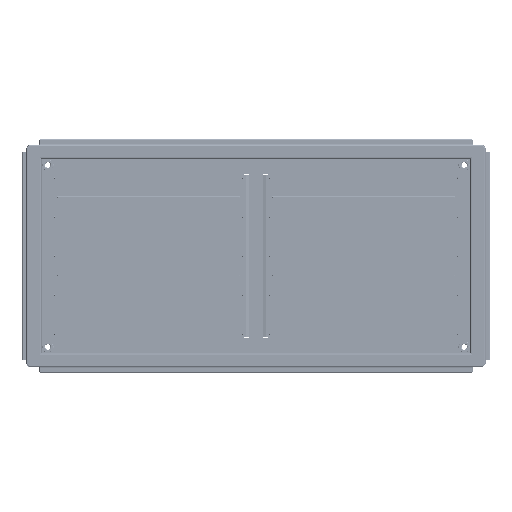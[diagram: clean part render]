
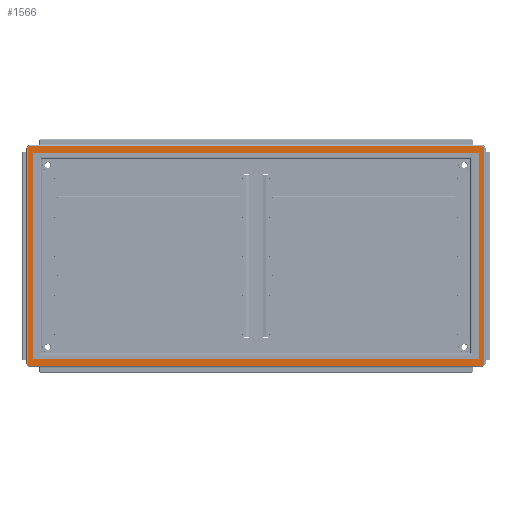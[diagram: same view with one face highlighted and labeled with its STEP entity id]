
A CAD part, front view. The second image highlights one B-rep face of the part: STEP entity #1566.
In plain terms, the highlighted planar face has unit normal (0, -1, 0).
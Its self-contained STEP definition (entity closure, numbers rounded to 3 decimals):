
#1566=ADVANCED_FACE('',(#38269,#38271),#38273,.T.);
#38269=FACE_BOUND('',#38270,.T.);
#38270=EDGE_LOOP('',(#107763,#107764,#107765,#107766,#107767,#107768,#107769,#107770));
#38271=FACE_BOUND('',#38272,.T.);
#38272=EDGE_LOOP('',(#107771,#107772,#107773,#107774));
#38273=PLANE('',#38274);
#38274=AXIS2_PLACEMENT_3D('',#38275,#38276,#38277);
#38275=CARTESIAN_POINT('',(262.2,0.,-564.9));
#38276=DIRECTION('',(0.,-1.,0.));
#38277=DIRECTION('',(0.,0.,1.));
#107763=ORIENTED_EDGE('',*,*,#148937,.F.);
#107764=ORIENTED_EDGE('',*,*,#148938,.F.);
#107765=ORIENTED_EDGE('',*,*,#148939,.T.);
#107766=ORIENTED_EDGE('',*,*,#148940,.T.);
#107767=ORIENTED_EDGE('',*,*,#148941,.F.);
#107768=ORIENTED_EDGE('',*,*,#148942,.T.);
#107769=ORIENTED_EDGE('',*,*,#148943,.T.);
#107770=ORIENTED_EDGE('',*,*,#148944,.F.);
#107771=ORIENTED_EDGE('',*,*,#148945,.T.);
#107772=ORIENTED_EDGE('',*,*,#148946,.T.);
#107773=ORIENTED_EDGE('',*,*,#148947,.F.);
#107774=ORIENTED_EDGE('',*,*,#148948,.T.);
#148937=EDGE_CURVE('',#169620,#169621,#169622,.T.);
#148938=EDGE_CURVE('',#169623,#169620,#169624,.T.);
#148939=EDGE_CURVE('',#169623,#169625,#169626,.T.);
#148940=EDGE_CURVE('',#169625,#169627,#169628,.T.);
#148941=EDGE_CURVE('',#169629,#169627,#169630,.T.);
#148942=EDGE_CURVE('',#169629,#169631,#169632,.T.);
#148943=EDGE_CURVE('',#169631,#169633,#169634,.T.);
#148944=EDGE_CURVE('',#169621,#169633,#169635,.T.);
#148945=EDGE_CURVE('',#169636,#169637,#169638,.T.);
#148946=EDGE_CURVE('',#169637,#169639,#169640,.T.);
#148947=EDGE_CURVE('',#169641,#169639,#169642,.T.);
#148948=EDGE_CURVE('',#169641,#169636,#169643,.T.);
#169620=VERTEX_POINT('',#205052);
#169621=VERTEX_POINT('',#205053);
#169622=LINE('',#205054,#205055);
#169623=VERTEX_POINT('',#205057);
#169624=LINE('',#205058,#205059);
#169625=VERTEX_POINT('',#205061);
#169626=LINE('',#205062,#205063);
#169627=VERTEX_POINT('',#205065);
#169628=LINE('',#205066,#205067);
#169629=VERTEX_POINT('',#205069);
#169630=LINE('',#205070,#205071);
#169631=VERTEX_POINT('',#205073);
#169632=LINE('',#205074,#205075);
#169633=VERTEX_POINT('',#205077);
#169634=LINE('',#205078,#205079);
#169635=LINE('',#205081,#205082);
#169636=VERTEX_POINT('',#205084);
#169637=VERTEX_POINT('',#205085);
#169638=LINE('',#205086,#205087);
#169639=VERTEX_POINT('',#205089);
#169640=LINE('',#205090,#205091);
#169641=VERTEX_POINT('',#205093);
#169642=LINE('',#205094,#205095);
#169643=LINE('',#205097,#205098);
#205052=CARTESIAN_POINT('',(766.716,0.,-3.1));
#205053=CARTESIAN_POINT('',(771.9,0.,-8.284));
#205054=CARTESIAN_POINT('',(766.716,0.,-3.1));
#205055=VECTOR('',#205056,1.);
#205056=DIRECTION('',(0.707,0.,-0.707));
#205057=CARTESIAN_POINT('',(-391.716,0.,-3.1));
#205058=CARTESIAN_POINT('',(-391.716,0.,-3.1));
#205059=VECTOR('',#205060,1.);
#205060=DIRECTION('',(1.,0.,0.));
#205061=CARTESIAN_POINT('',(-396.9,0.,-8.284));
#205062=CARTESIAN_POINT('',(-391.716,0.,-3.1));
#205063=VECTOR('',#205064,1.);
#205064=DIRECTION('',(-0.707,0.,-0.707));
#205065=CARTESIAN_POINT('',(-396.9,0.,-559.716));
#205066=CARTESIAN_POINT('',(-396.9,0.,-8.284));
#205067=VECTOR('',#205068,1.);
#205068=DIRECTION('',(0.,0.,-1.));
#205069=CARTESIAN_POINT('',(-391.716,0.,-564.9));
#205070=CARTESIAN_POINT('',(-391.716,0.,-564.9));
#205071=VECTOR('',#205072,1.);
#205072=DIRECTION('',(-0.707,0.,0.707));
#205073=CARTESIAN_POINT('',(766.716,0.,-564.9));
#205074=CARTESIAN_POINT('',(-391.716,0.,-564.9));
#205075=VECTOR('',#205076,1.);
#205076=DIRECTION('',(1.,0.,0.));
#205077=CARTESIAN_POINT('',(771.9,0.,-559.716));
#205078=CARTESIAN_POINT('',(766.716,0.,-564.9));
#205079=VECTOR('',#205080,1.);
#205080=DIRECTION('',(0.707,0.,0.707));
#205081=CARTESIAN_POINT('',(771.9,0.,-8.284));
#205082=VECTOR('',#205083,1.);
#205083=DIRECTION('',(0.,0.,-1.));
#205084=CARTESIAN_POINT('',(-383.591,0.,-19.899));
#205085=CARTESIAN_POINT('',(758.591,0.,-19.899));
#205086=CARTESIAN_POINT('',(-383.591,0.,-19.899));
#205087=VECTOR('',#205088,1.);
#205088=DIRECTION('',(1.,0.,0.));
#205089=CARTESIAN_POINT('',(758.591,0.,-548.101));
#205090=CARTESIAN_POINT('',(758.591,0.,-19.899));
#205091=VECTOR('',#205092,1.);
#205092=DIRECTION('',(0.,0.,-1.));
#205093=CARTESIAN_POINT('',(-383.591,0.,-548.101));
#205094=CARTESIAN_POINT('',(-383.591,0.,-548.101));
#205095=VECTOR('',#205096,1.);
#205096=DIRECTION('',(1.,0.,0.));
#205097=CARTESIAN_POINT('',(-383.591,0.,-548.101));
#205098=VECTOR('',#205099,1.);
#205099=DIRECTION('',(0.,0.,1.));
